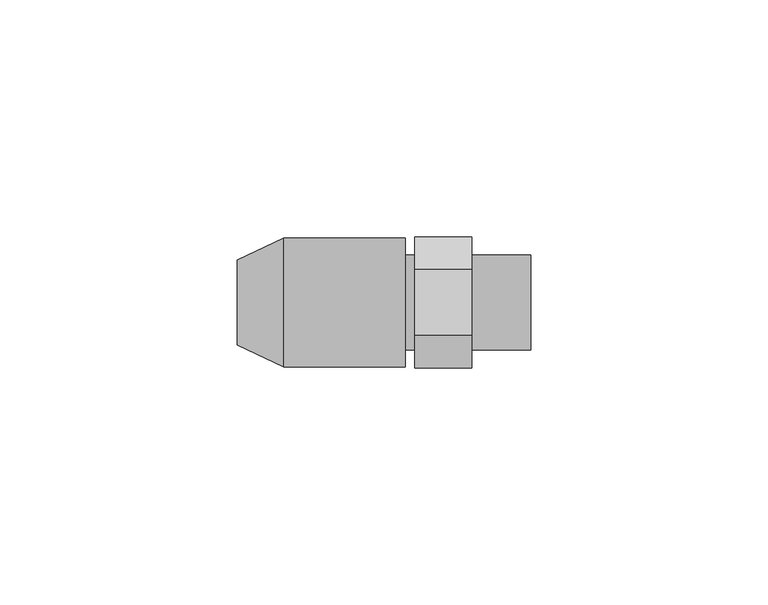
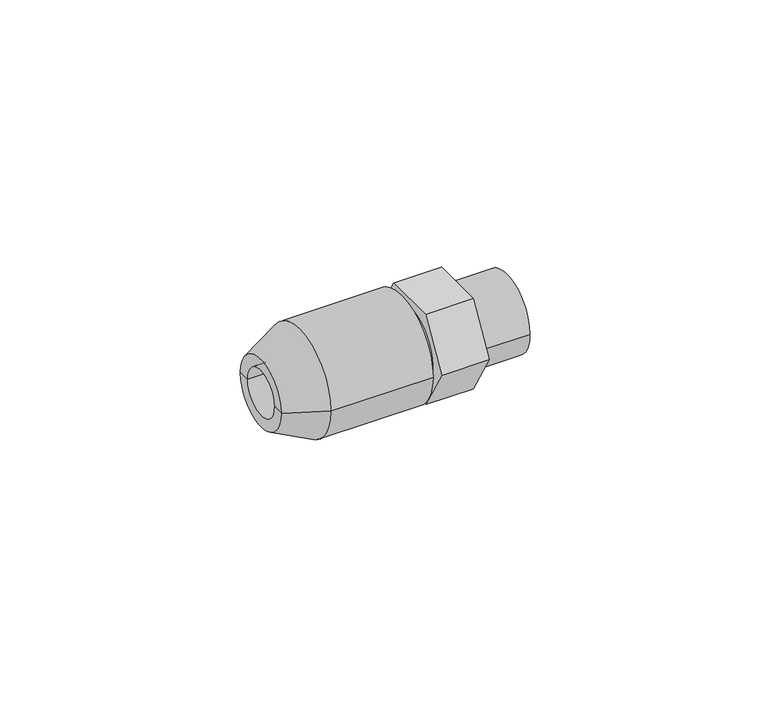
"""IFC4 building model written with IfcOpenShell, lengths in millimetres: pipe fitting geometry."""

from ifc_helpers import new_model, si_unit, frame, origin, place, context, project, spatial, polyline, circle_curve, source, transform, mapped, element, save
from ifc_brep_helpers import plane_surface, cylinder_surface, revolved_surface, advanced_brep


def pipe_fitting_76addbfd(model_context):
    return source(origin(), model_context, "Body", "AdvancedBrep", [
        advanced_brep(
        [(5.5, -13.6, 0.0), (5.5, 13.6, 0.0), (5.5, 0.0, 0.0), (-20.1352682, -13.6, 0.0), (-20.1352682, 13.6, 0.0), (-30.0, -9.0, 0.0), (-30.0, 9.0, 0.0), (-30.0, -6.0, 0.0), (-30.0, 6.0, 0.0), (-5.0, -6.0, 0.0), (-5.0, 6.0, 0.0), (-5.0, 0.0, 0.0)],
        [
            (0, 1, circle_curve(frame((5.5, 0.0, 0.0), z_axis=(1.0, 0.0, 0.0), x_axis=(0.0, 1.0, 0.0)), 13.6)),
            (1, 2),
            (2, 0),
            (1, 0, circle_curve(frame((5.5, 0.0, 0.0), z_axis=(1.0, 0.0, 0.0), x_axis=(0.0, 1.0, 0.0)), 13.6)),
            (3, 4, circle_curve(frame((-20.1352682, 0.0, 0.0), z_axis=(1.0, 0.0, 0.0), x_axis=(0.0, 1.0, 0.0)), 13.6)),
            (4, 1),
            (0, 3),
            (4, 3, circle_curve(frame((-20.1352682, 0.0, 0.0), z_axis=(1.0, 0.0, 0.0), x_axis=(0.0, 1.0, 0.0)), 13.6)),
            (5, 6, circle_curve(frame((-30.0, 0.0, 0.0), z_axis=(1.0, 0.0, 0.0), x_axis=(0.0, 1.0, 0.0)), 9.0)),
            (6, 4),
            (3, 5),
            (6, 5, circle_curve(frame((-30.0, 0.0, 0.0), z_axis=(1.0, 0.0, 0.0), x_axis=(0.0, 1.0, 0.0)), 9.0)),
            (7, 8, circle_curve(frame((-30.0, 0.0, 0.0), z_axis=(1.0, 0.0, 0.0), x_axis=(0.0, 1.0, 0.0)), 6.0)),
            (8, 6),
            (5, 7),
            (8, 7, circle_curve(frame((-30.0, 0.0, 0.0), z_axis=(1.0, 0.0, 0.0), x_axis=(0.0, 1.0, 0.0)), 6.0)),
            (9, 10, circle_curve(frame((-5.0, 0.0, 0.0), z_axis=(1.0, 0.0, 0.0), x_axis=(0.0, 1.0, 0.0)), 6.0)),
            (10, 8),
            (7, 9),
            (10, 9, circle_curve(frame((-5.0, 0.0, 0.0), z_axis=(1.0, 0.0, 0.0), x_axis=(0.0, 1.0, 0.0)), 6.0)),
            (11, 10),
            (9, 11),
        ],
        [
            plane_surface(frame((5.5, 0.0, 0.0), z_axis=(1.0, 0.0, 0.0), x_axis=(0.0, 1.0, 0.0))),
            cylinder_surface(frame((-40.0, 0.0, 0.0), z_axis=(-1.0, 0.0, 0.0), x_axis=(0.0, 1.0, 0.0)), 13.6),
            revolved_surface(polyline([(-20.1352682, 13.6, 0.0), (-30.0, 9.0, 0.0)]), (-40.0, 0.0, 0.0), (-1.0, 0.0, 0.0)),
            plane_surface(frame((-30.0, 0.0, 0.0), z_axis=(-1.0, 0.0, 0.0), x_axis=(0.0, 1.0, 0.0))),
            revolved_surface(polyline([(-30.0, 6.0, 0.0), (-5.0, 6.0, 0.0)]), (-40.0, 0.0, 0.0), (-1.0, 0.0, 0.0)),
            plane_surface(frame((-5.0, 0.0, 0.0), z_axis=(-1.0, 0.0, 0.0), x_axis=(0.0, 1.0, 0.0))),
        ],
        [
            (0, [[1, 2, 3]]),
            (0, [[4, -3, -2]]),
            (1, [[5, 6, -1, 7]]),
            (1, [[8, -7, -4, -6]]),
            (2, [[9, 10, -5, 11]]),
            (2, [[12, -11, -8, -10]]),
            (3, [[13, 14, -9, 15]]),
            (3, [[16, -15, -12, -14]]),
            (4, [[17, 18, -13, 19]]),
            (4, [[20, -19, -16, -18]]),
            (5, [[21, -17, 22]]),
            (5, [[-22, -20, -21]]),
        ],
    ),
        advanced_brep(
        [(7.5, -13.8564065, 0.0), (7.5, -6.9282032, 12.0), (7.5, 6.9282032, 12.0), (7.5, 13.8564065, 0.0), (7.5, 6.9282032, -12.0), (7.5, -6.9282032, -12.0), (7.5, 10.0, 0.0), (7.5, -10.0, 0.0), (19.5, -13.8564065, 0.0), (19.5, -6.9282032, -12.0), (19.5, 6.9282032, -12.0), (19.5, 13.8564065, 0.0), (19.5, 6.9282032, 12.0), (19.5, -6.9282032, 12.0), (19.5, -10.0, 0.0), (19.5, 10.0, 0.0), (-5.0, -10.0, 0.0), (-5.0, 10.0, 0.0), (32.0, -10.0, 0.0), (32.0, 10.0, 0.0)],
        [
            (0, 1),
            (1, 2),
            (2, 3),
            (3, 4),
            (4, 5),
            (5, 0),
            (6, 7, circle_curve(frame((7.5, 0.0, 0.0), z_axis=(1.0, 0.0, 0.0), x_axis=(0.0, 1.0, 0.0)), 10.0)),
            (7, 6, circle_curve(frame((7.5, 0.0, 0.0), z_axis=(1.0, 0.0, 0.0), x_axis=(0.0, 1.0, 0.0)), 10.0)),
            (8, 9),
            (9, 10),
            (10, 11),
            (11, 12),
            (12, 13),
            (13, 8),
            (14, 15, circle_curve(frame((19.5, 0.0, 0.0), z_axis=(-1.0, 0.0, 0.0), x_axis=(0.0, 1.0, 0.0)), 10.0)),
            (15, 14, circle_curve(frame((19.5, 0.0, 0.0), z_axis=(-1.0, 0.0, 0.0), x_axis=(0.0, 1.0, 0.0)), 10.0)),
            (0, 8),
            (13, 1),
            (12, 2),
            (11, 3),
            (10, 4),
            (9, 5),
            (16, 17, circle_curve(frame((-5.0, 0.0, 0.0), z_axis=(-1.0, 0.0, 0.0), x_axis=(0.0, 1.0, 0.0)), 10.0)),
            (17, 16, circle_curve(frame((-5.0, 0.0, 0.0), z_axis=(-1.0, 0.0, 0.0), x_axis=(0.0, 1.0, 0.0)), 10.0)),
            (18, 19, circle_curve(frame((32.0, 0.0, 0.0), z_axis=(1.0, 0.0, 0.0), x_axis=(0.0, 1.0, 0.0)), 10.0)),
            (19, 18, circle_curve(frame((32.0, 0.0, 0.0), z_axis=(1.0, 0.0, 0.0), x_axis=(0.0, 1.0, 0.0)), 10.0)),
            (16, 7),
            (6, 17),
            (19, 15),
            (14, 18),
        ],
        [
            plane_surface(frame((7.5, 0.0, 0.0), z_axis=(-1.0, 0.0, 0.0), x_axis=(0.0, 0.0, 1.0))),
            plane_surface(frame((19.5, 0.0, 0.0), z_axis=(1.0, 0.0, 0.0), x_axis=(0.0, 0.0, 1.0))),
            plane_surface(frame((7.5, -13.8564065, 0.0), z_axis=(0.0, -0.8660254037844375, 0.5000000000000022), x_axis=(1.0, 0.0, 0.0))),
            plane_surface(frame((7.5, -6.9282032, 12.0), z_axis=(0.0, 0.0, 1.0), x_axis=(1.0, 0.0, 0.0))),
            plane_surface(frame((7.5, 6.9282032, 12.0), z_axis=(0.0, 0.8660254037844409, 0.49999999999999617), x_axis=(1.0, 0.0, 0.0))),
            plane_surface(frame((7.5, 13.8564065, 0.0), z_axis=(0.0, 0.866025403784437, -0.500000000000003), x_axis=(1.0, 0.0, 0.0))),
            plane_surface(frame((7.5, 6.9282032, -12.0), z_axis=(0.0, 0.0, -1.0), x_axis=(1.0, 0.0, 0.0))),
            plane_surface(frame((7.5, -6.9282032, -12.0), z_axis=(0.0, -0.8660254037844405, -0.499999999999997), x_axis=(1.0, 0.0, 0.0))),
            plane_surface(frame((-5.0, 0.0, 0.0), z_axis=(-1.0, 0.0, 0.0), x_axis=(0.0, 0.0, 1.0))),
            plane_surface(frame((32.0, 0.0, 0.0), z_axis=(1.0, 0.0, 0.0), x_axis=(0.0, 0.0, 1.0))),
            cylinder_surface(frame((-5.0, 0.0, 0.0), z_axis=(-1.0, 0.0, 0.0), x_axis=(0.0, 1.0, 0.0)), 10.0),
        ],
        [
            (0, [[1, 2, 3, 4, 5, 6], [7, 8]]),
            (1, [[9, 10, 11, 12, 13, 14], [15, 16]]),
            (2, [[-1, 17, -14, 18]]),
            (3, [[-2, -18, -13, 19]]),
            (4, [[-3, -19, -12, 20]]),
            (5, [[-4, -20, -11, 21]]),
            (6, [[-5, -21, -10, 22]]),
            (7, [[-6, -22, -9, -17]]),
            (8, [[23, 24]]),
            (9, [[25, 26]]),
            (10, [[-23, 27, -7, 28]]),
            (10, [[-26, 29, -15, 30]]),
            (10, [[-24, -28, -8, -27]]),
            (10, [[-25, -30, -16, -29]]),
        ],
    ),
    ])


if __name__ == "__main__":
    model = new_model("IFC4")
    model_context = context("Model", 3, world=origin())
    ifc_project = project(units=[si_unit("LENGTHUNIT", "METRE", prefix="MILLI")], contexts=[model_context])
    site = spatial("IfcSite", under=ifc_project)
    building = spatial("IfcBuilding", under=site)
    placement = place(None, origin())
    pipe_fitting_shape = pipe_fitting_76addbfd(model_context)
    element("IfcPipeFitting", 1, ObjectType="NLRS_50_PIF_UN_PushFit overgang met buitendraad (brons)_geb : DN12-20-R1\" / d16-25-R1\"", at=placement, inside=building, context=model_context, shape_type="MappedRepresentation", body=[
        mapped(pipe_fitting_shape, transform((0.0, 0.0, 0.0), x_axis=(1.0, 0.0, 0.0), y_axis=(0.0, 1.0, 0.0), z_axis=(0.0, 0.0, 1.0))),
    ])
    save(model, "model.ifc")
